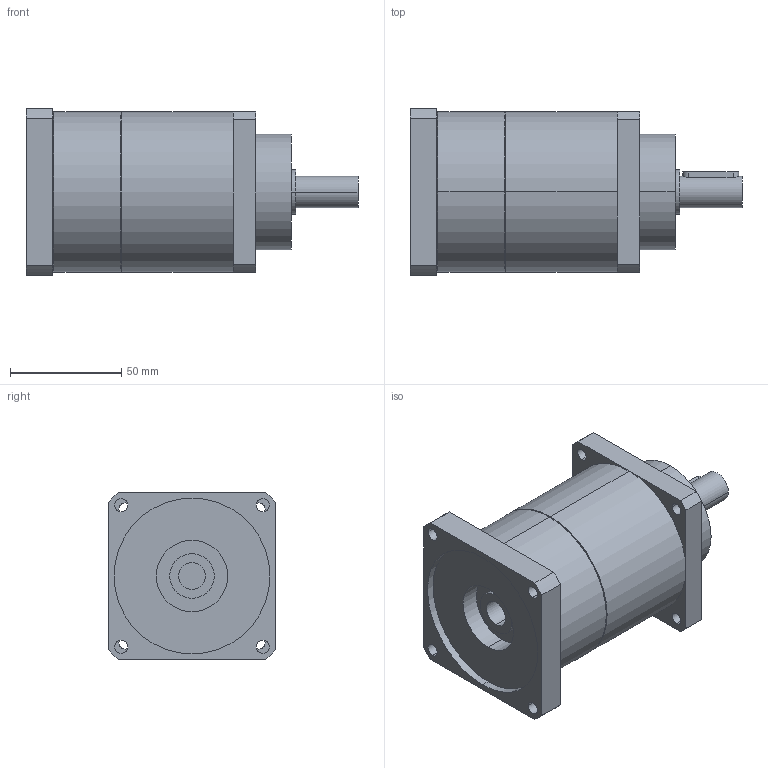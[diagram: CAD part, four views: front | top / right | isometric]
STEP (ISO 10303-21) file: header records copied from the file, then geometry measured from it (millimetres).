
FILE_DESCRIPTION(('CoCreate Modeling STEP Export'),'2;1');
FILE_NAME('GPT75_ig-9-12-16-20-25-28-35-40-50-70-100_14_B5T_12_P24.stp','2014-08-27T13:37:22',(''),(''),'CoCreate Modeling STEP processor for AP214 (Solid Model)','CoCreate Modeling 16.00C 25-Feb-2009 (C) Parametric Technology GmbH','');
FILE_SCHEMA(('AUTOMOTIVE_DESIGN { 1 0 10303 214 1 1 1 1 }'));
Length unit declared in the file: millimetre
Products named in the file (2): GPT75_ig-9-12-16-20-25-28-35-40-50-70-100_14_B5T_12_P24
Assembly tree (1 placements, depth 2):
  GPT75_ig-9-12-16-20-25-28-35-40-50-70-100_14_B5T_12_P24
    GPT75_ig-9-12-16-20-25-28-35-40-50-70-100_14_B5T_12_P24
Bounding box: 149 x 75 x 75 mm (x, y, z)
Volume: 462283.3 mm3; surface area: 46769.3 mm2
Topology: 1 solids, 1 shells, 77 faces, 191 edges, 126 vertices
Faces by surface type: cylinder 46, plane 27, cone 4
Entity records: 2469 total; most frequent: CARTESIAN_POINT 716, ORIENTED_EDGE 382, DIRECTION 320, EDGE_CURVE 191, VERTEX_POINT 126, AXIS2_PLACEMENT_3D 118, EDGE_LOOP 103, VECTOR 84
